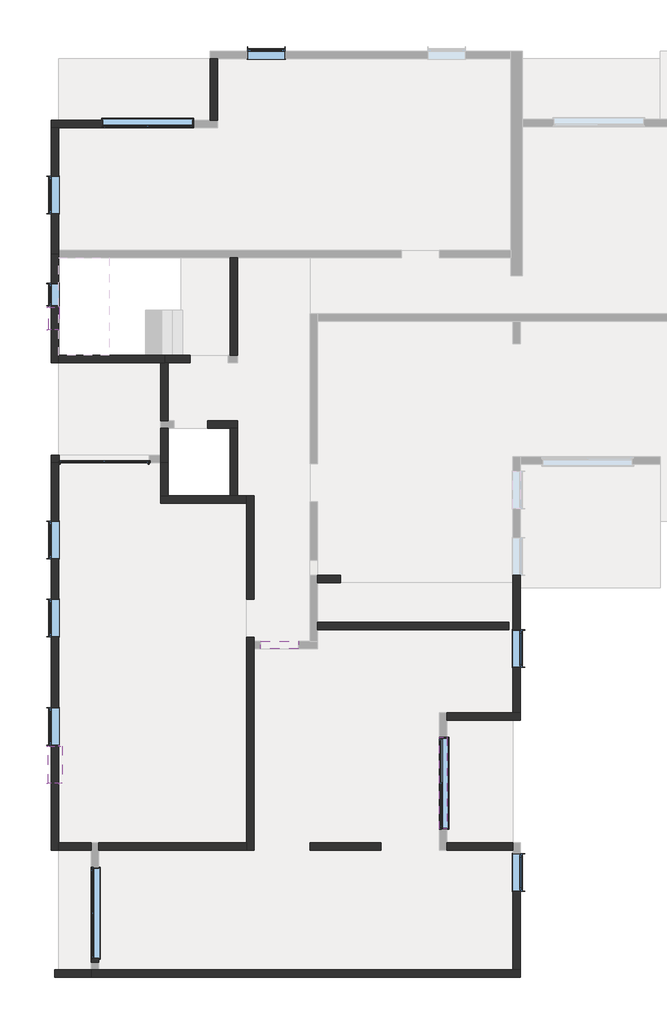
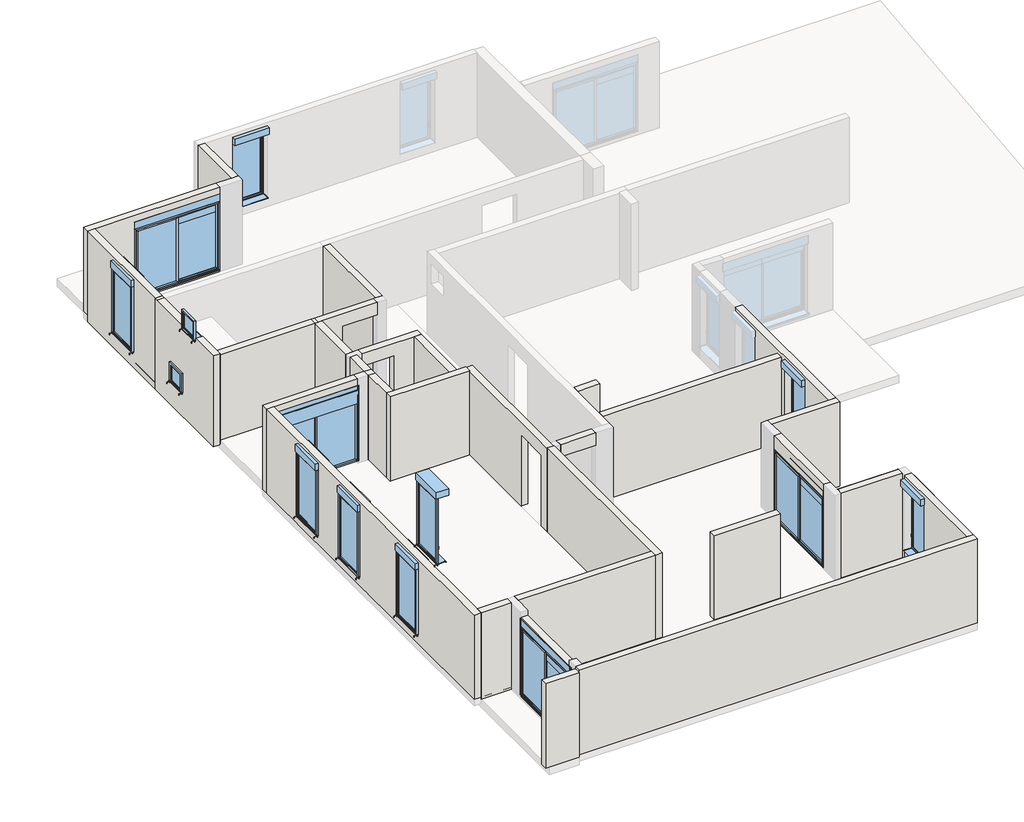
# One storey, part 1 of 3: 31 walls, 14 windows.
"""IFC4 building model written with IfcOpenShell, lengths in millimetres."""

from ifc_helpers import new_model, si_unit, frame, origin, place, context, project, spatial, polyline, outline, extrude, faceted_brep, transform, mapped, element, save
from components import window_b85a0a24, window_200x100_8459d8a5, window_200x100_a15cc3b6, m03_dc1d0546, tunnel_1v_voile_60x60_87597c4a

model = new_model("IFC4")

# Units and contexts
model_context = context("Model", 3, world=origin())
ifc_project = project(units=[si_unit("LENGTHUNIT", "METRE", prefix="MILLI")], contexts=[model_context])

# Site, building, storey
site = spatial("IfcSite", under=ifc_project)
building = spatial("IfcBuilding", under=site)
storey = spatial("IfcBuildingStorey", under=building, Name="04-Plateau 4", Elevation=6400.0)

# Walls
placement = place(None, origin())
element("IfcWall", 1, ObjectType="Voile Banché 20 cm", at=placement, inside=storey, context=model_context, shape_type="SweptSolid", body=[
    extrude(outline(polyline([(-4837.0447796, -2140.1377724), (-887.0447796, -2140.1377724), (-887.0447796, -2340.1377724), (-4837.0447796, -2340.1377724), (-4837.0447796, -2140.1377724)])), frame((0.0, 0.0, 6970.0), z_axis=(0.0, 0.0, 1.0), x_axis=(1.0, 0.0, 0.0)), (0.0, 0.0, 1.0), 2570.0),
])
element("IfcWall", 2, ObjectType="Voile Banché 20 cm", at=placement, inside=storey, context=model_context, shape_type="Brep", body=[
    faceted_brep([(-6107.0447796, 13579.8622276, 6770.0), (-6107.0447796, 10679.8622276, 6770.0), (-6107.0447796, 10679.8622276, 6990.0), (-6107.0447796, 10679.8622276, 9360.0), (-6107.0447796, 10679.8622276, 9540.0), (-6107.0447796, 10879.8622276, 9540.0), (-6107.0447796, 11554.8622276, 9540.0), (-6107.0447796, 11554.8622276, 9480.0), (-6107.0447796, 12154.8622276, 9480.0), (-6107.0447796, 12154.8622276, 9540.0), (-6107.0447796, 13479.8622276, 9540.0), (-6107.0447796, 13579.8622276, 9540.0), (-6107.0447796, 12794.4911239, 7495.0), (-6107.0447796, 12794.4911239, 8095.0), (-6107.0447796, 12194.4911239, 8095.0), (-6107.0447796, 12194.4911239, 7495.0), (-5907.0447796, 10679.8622276, 6770.0), (-5907.0447796, 13579.8622276, 6770.0), (-5907.0447796, 13579.8622276, 9540.0), (-5907.0447796, 13479.8622276, 9540.0), (-5907.0447796, 12154.8622276, 9540.0), (-5907.0447796, 12154.8622276, 9480.0), (-5907.0447796, 11554.8622276, 9480.0), (-5907.0447796, 11554.8622276, 9540.0), (-5907.0447796, 10879.8622276, 9540.0), (-5907.0447796, 10679.8622276, 9540.0), (-5907.0447796, 10679.8622276, 9510.0), (-5907.0447796, 10679.8622276, 9360.0), (-5907.0447796, 10679.8622276, 6990.0), (-5907.0447796, 10679.8622276, 6792.7706813), (-5907.0447796, 12794.4911239, 8095.0), (-5907.0447796, 12794.4911239, 7495.0), (-5907.0447796, 12194.4911239, 7495.0), (-5907.0447796, 12194.4911239, 8095.0)], [[[0, 1, 2, 3, 4, 5, 6, 7, 8, 9, 10, 11], [12, 13, 14, 15]], [[16, 17, 18, 19, 20, 21, 22, 23, 24, 25, 26, 27, 28, 29], [30, 31, 32, 33]], [[1, 0, 17, 16]], [[4, 3, 2, 1, 16, 29, 28, 27, 26, 25]], [[4, 25, 24, 23, 6, 5]], [[10, 9, 20, 19]], [[11, 10, 19, 18]], [[8, 21, 20, 9]], [[22, 7, 6, 23]], [[21, 8, 7, 22]], [[12, 31, 30, 13]], [[13, 30, 33, 14]], [[14, 33, 32, 15]], [[31, 12, 15, 32]], [[17, 0, 11, 18]]]),
])
element("IfcWall", 3, ObjectType="Voile Banché 20 cm", at=placement, inside=storey, context=model_context, shape_type="Brep", body=[
    faceted_brep([(-5907.0447796, 10679.8622276, 6792.7706813), (-3177.0447796, 10679.8622276, 6792.7706813), (-3077.0447796, 10679.8622276, 6792.7706813), (-3077.0447796, 10679.8622276, 6970.0), (-3077.0447796, 10679.8622276, 9510.0), (-3177.0447796, 10679.8622276, 9510.0), (-5907.0447796, 10679.8622276, 9510.0), (-5907.0447796, 10679.8622276, 6900.0), (-5907.0447796, 10879.8622276, 6792.7706813), (-5907.0447796, 10879.8622276, 9510.0), (-3177.0447796, 10879.8622276, 9510.0), (-3077.0447796, 10879.8622276, 9510.0), (-3077.0447796, 10879.8622276, 6970.0), (-3077.0447796, 10879.8622276, 6792.7706813), (-5907.0447796, 10779.8622276, 6792.7706813)], [[[0, 1, 2, 3, 4, 5, 6, 7]], [[8, 9, 10, 11, 12, 13]], [[2, 1, 0, 14, 8, 13]], [[4, 3, 2, 13, 12, 11]], [[0, 7, 6, 9, 8, 14]], [[6, 5, 10, 9]], [[5, 4, 11, 10]]]),
])
element("IfcWall", 4, ObjectType="Voile Banché 20 cm", at=placement, inside=storey, context=model_context, shape_type="Brep", body=[
    faceted_brep([(-1377.0447796, 10679.8622276, 9510.0), (-2977.0447796, 10679.8622276, 9510.0), (-3077.0447796, 10679.8622276, 9510.0), (-3077.0447796, 10679.8622276, 6970.0), (-2977.0447796, 10679.8622276, 6970.0), (-2397.0447796, 10679.8622276, 6970.0), (-2397.0447796, 10679.8622276, 9140.0), (-1377.0447796, 10679.8622276, 9140.0), (-3077.0447796, 10879.8622276, 9510.0), (-1377.0447796, 10879.8622276, 9510.0), (-1377.0447796, 10879.8622276, 9140.0), (-2397.0447796, 10879.8622276, 9140.0), (-2397.0447796, 10879.8622276, 6970.0), (-3077.0447796, 10879.8622276, 6970.0)], [[[0, 1, 2, 3, 4, 5, 6, 7]], [[8, 9, 10, 11, 12, 13]], [[3, 13, 12, 5, 4]], [[9, 0, 7, 10]], [[3, 2, 8, 13]], [[6, 11, 10, 7]], [[11, 6, 5, 12]], [[2, 1, 0, 9, 8]]]),
])
element("IfcWall", 5, ObjectType="Voile Banché 20 cm", at=placement, inside=storey, context=model_context, shape_type="Brep", body=[
    faceted_brep([(-3177.0447796, 10679.8622276, 6970.0), (-3177.0447796, 9129.8622276, 6970.0), (-3177.0447796, 9129.8622276, 9510.0), (-3177.0447796, 10679.8622276, 9510.0), (-2977.0447796, 10679.8622276, 6970.0), (-2977.0447796, 10679.8622276, 9510.0), (-2977.0447796, 9129.8622276, 9510.0), (-2977.0447796, 9129.8622276, 6970.0), (-3077.0447796, 10679.8622276, 6970.0), (-3077.0447796, 10679.8622276, 9510.0)], [[[0, 1, 2, 3]], [[4, 5, 6, 7]], [[1, 0, 8, 4, 7]], [[2, 1, 7, 6]], [[0, 3, 9, 5, 4, 8]], [[3, 2, 6, 5, 9]]]),
])
element("IfcWall", 6, ObjectType="Voile Banché 20 cm", at=placement, inside=storey, context=model_context, shape_type="Brep", body=[
    faceted_brep([(-1127.0447796, 8929.8622276, 6970.0), (-1127.0447796, 8929.8622276, 9510.0), (-1327.0447796, 8929.8622276, 9510.0), (-2817.0447796, 8929.8622276, 9510.0), (-2817.0447796, 8929.8622276, 9140.0), (-1917.0447796, 8929.8622276, 9140.0), (-1917.0447796, 8929.8622276, 6970.0), (-1327.0447796, 8929.8622276, 6970.0), (-1127.0447796, 9129.8622276, 9510.0), (-1127.0447796, 9129.8622276, 6970.0), (-1917.0447796, 9129.8622276, 6970.0), (-1917.0447796, 9129.8622276, 9140.0), (-2817.0447796, 9129.8622276, 9140.0), (-2817.0447796, 9129.8622276, 9510.0)], [[[0, 1, 2, 3, 4, 5, 6, 7]], [[8, 9, 10, 11, 12, 13]], [[9, 0, 7, 6, 10]], [[3, 13, 12, 4]], [[1, 0, 9, 8]], [[11, 5, 4, 12]], [[5, 11, 10, 6]], [[3, 2, 1, 8, 13]]]),
])
element("IfcWall", 7, ObjectType="Voile Banché 20 cm", at=placement, inside=storey, context=model_context, shape_type="SweptSolid", body=[
    extrude(outline(polyline([(-1327.0447796, 7129.8622276), (-1327.0447796, 8929.8622276), (-1127.0447796, 8929.8622276), (-1127.0447796, 7129.8622276), (-1327.0447796, 7129.8622276)])), frame((0.0, 0.0, 6970.0), z_axis=(0.0, 0.0, 1.0), x_axis=(1.0, 0.0, 0.0)), (0.0, 0.0, 1.0), 2540.0),
])
element("IfcWall", 8, ObjectType="Voile Banché 20 cm", at=placement, inside=storey, context=model_context, shape_type="SweptSolid", body=[
    extrude(outline(polyline([(-2977.0447796, 8009.8622276), (-2977.0447796, 7129.8622276), (-3177.0447796, 7129.8622276), (-3177.0447796, 8009.8622276), (-2977.0447796, 8009.8622276)])), frame((0.0, 0.0, 6970.0), z_axis=(0.0, 0.0, 1.0), x_axis=(1.0, 0.0, 0.0)), (0.0, 0.0, 1.0), 2570.0),
])
element("IfcWall", 9, ObjectType="Voile Banché 20 cm", at=placement, inside=storey, context=model_context, shape_type="Brep", body=[
    faceted_brep([(-6107.0447796, 8009.8622276, 6970.0), (-6107.0447796, 7629.8622276, 6970.0), (-6107.0447796, 7129.8622276, 6970.0), (-6107.0447796, -2340.1377724, 6970.0), (-6107.0447796, -2340.1377724, 6990.0), (-6107.0447796, -2340.1377724, 9360.0), (-6107.0447796, -2340.1377724, 9540.0), (-6107.0447796, 8009.8622276, 9540.0), (-6107.0447796, 5439.8622276, 9440.0), (-6107.0447796, 5439.8622276, 7240.0), (-6107.0447796, 6439.8622276, 7240.0), (-6107.0447796, 6439.8622276, 9440.0), (-6107.0447796, 3359.8622276, 9440.0), (-6107.0447796, 3359.8622276, 7240.0), (-6107.0447796, 4359.8622276, 7240.0), (-6107.0447796, 4359.8622276, 9440.0), (-6107.0447796, 459.8622276, 9440.0), (-6107.0447796, 459.8622276, 7240.0), (-6107.0447796, 1459.8622276, 7240.0), (-6107.0447796, 1459.8622276, 9440.0), (-5907.0447796, -2340.1377724, 6970.0), (-5907.0447796, 8009.8622276, 6970.0), (-5907.0447796, 8009.8622276, 9540.0), (-5907.0447796, -2140.1377724, 9540.0), (-5907.0447796, -2340.1377724, 9540.0), (-5907.0447796, -2340.1377724, 9360.0), (-5907.0447796, -2340.1377724, 6990.0), (-5907.0447796, 5439.8622276, 7240.0), (-5907.0447796, 5439.8622276, 9440.0), (-5907.0447796, 6439.8622276, 9440.0), (-5907.0447796, 6439.8622276, 7240.0), (-5907.0447796, 3359.8622276, 7240.0), (-5907.0447796, 3359.8622276, 9440.0), (-5907.0447796, 4359.8622276, 9440.0), (-5907.0447796, 4359.8622276, 7240.0), (-5907.0447796, 459.8622276, 7240.0), (-5907.0447796, 459.8622276, 9440.0), (-5907.0447796, 1459.8622276, 9440.0), (-5907.0447796, 1459.8622276, 7240.0)], [[[0, 1, 2, 3, 4, 5, 6, 7], [8, 9, 10, 11], [12, 13, 14, 15], [16, 17, 18, 19]], [[20, 21, 22, 23, 24, 25, 26], [27, 28, 29, 30], [31, 32, 33, 34], [35, 36, 37, 38]], [[3, 2, 1, 0, 21, 20]], [[6, 5, 4, 3, 20, 26, 25, 24]], [[0, 7, 22, 21]], [[7, 6, 24, 23, 22]], [[27, 9, 8, 28]], [[28, 8, 11, 29]], [[29, 11, 10, 30]], [[9, 27, 30, 10]], [[31, 13, 12, 32]], [[32, 12, 15, 33]], [[33, 15, 14, 34]], [[13, 31, 34, 14]], [[35, 17, 16, 36]], [[36, 16, 19, 37]], [[37, 19, 18, 38]], [[17, 35, 38, 18]]]),
])
element("IfcWall", 10, ObjectType="Voile Banché 20 cm", at=placement, inside=storey, context=model_context, shape_type="Brep", body=[
    faceted_brep([(-5037.0447796, -5740.1377724, 6970.0), (6432.9552204, -5740.1377724, 6970.0), (6432.9552204, -5740.1377724, 9540.0), (-5037.0447796, -5740.1377724, 9540.0), (-5037.0447796, -5740.1377724, 9470.0), (-5037.0447796, -5540.1377724, 6970.0), (-5037.0447796, -5540.1377724, 9470.0), (-5037.0447796, -5540.1377724, 9540.0), (-4837.0447796, -5540.1377724, 9540.0), (6232.9552204, -5540.1377724, 9540.0), (6432.9552204, -5540.1377724, 9540.0), (6432.9552204, -5540.1377724, 6970.0), (-4837.0447796, -5540.1377724, 6970.0)], [[[0, 1, 2, 3, 4]], [[5, 6, 7, 8, 9, 10, 11, 12]], [[1, 0, 5, 12, 11]], [[0, 4, 3, 7, 6, 5]], [[2, 1, 11, 10]], [[3, 2, 10, 9, 8, 7]]]),
])
element("IfcWall", 11, ObjectType="Voile Banché 20 cm", at=placement, inside=storey, context=model_context, shape_type="Brep", body=[
    faceted_brep([(-887.0447796, -2340.1377724, 6970.0), (-887.0447796, -2340.1377724, 9540.0), (-887.0447796, -2140.1377724, 9540.0), (-887.0447796, 3039.8622276, 9540.0), (-887.0447796, 3039.8622276, 9510.0), (-887.0447796, 7129.8622276, 9510.0), (-887.0447796, 7129.8622276, 6970.0), (-887.0447796, 6929.8622276, 6970.0), (-887.0447796, 4359.8622276, 6970.0), (-887.0447796, 4359.8622276, 9140.0), (-887.0447796, 3339.8622276, 9140.0), (-887.0447796, 3339.8622276, 6970.0), (-887.0447796, -2140.1377724, 6970.0), (-687.0447796, -2340.1377724, 9540.0), (-687.0447796, -2340.1377724, 6970.0), (-687.0447796, 3039.8622276, 6970.0), (-687.0447796, 3239.8622276, 6970.0), (-687.0447796, 3339.8622276, 6970.0), (-687.0447796, 3339.8622276, 9140.0), (-687.0447796, 4359.8622276, 9140.0), (-687.0447796, 4359.8622276, 6970.0), (-687.0447796, 7129.8622276, 6970.0), (-687.0447796, 7129.8622276, 9510.0), (-687.0447796, 3239.8622276, 9510.0), (-687.0447796, 3039.8622276, 9510.0), (-687.0447796, 3039.8622276, 9540.0)], [[[0, 1, 2, 3, 4, 5, 6, 7, 8, 9, 10, 11, 12]], [[13, 14, 15, 16, 17, 18, 19, 20, 21, 22, 23, 24, 25]], [[14, 0, 12, 11, 17, 16, 15]], [[6, 21, 20, 8, 7]], [[1, 0, 14, 13]], [[6, 5, 22, 21]], [[9, 19, 18, 10]], [[19, 9, 8, 20]], [[10, 18, 17, 11]], [[3, 2, 1, 13, 25]], [[5, 4, 24, 23, 22]], [[3, 25, 24, 4]]]),
])
element("IfcWall", 12, ObjectType="Voile Banché 20 cm", at=placement, inside=storey, context=model_context, shape_type="SweptSolid", body=[
    extrude(outline(polyline([(-1127.0447796, 13479.8622276), (-1127.0447796, 10879.8622276), (-1327.0447796, 10879.8622276), (-1327.0447796, 13479.8622276), (-1127.0447796, 13479.8622276)])), frame((0.0, 0.0, 6970.0), z_axis=(0.0, 0.0, 1.0), x_axis=(1.0, 0.0, 0.0)), (0.0, 0.0, 1.0), 2540.0),
])
element("IfcWall", 13, ObjectType="Voile Banché 20 cm", at=placement, inside=storey, context=model_context, shape_type="Brep", body=[
    faceted_brep([(-6007.0447796, -5740.1377724, 6900.0), (-5907.0447796, -5740.1377724, 6900.0), (-5037.0447796, -5740.1377724, 6900.0), (-5037.0447796, -5740.1377724, 6970.0), (-5037.0447796, -5740.1377724, 9470.0), (-6007.0447796, -5740.1377724, 9470.0), (-6007.0447796, -5740.1377724, 6990.0), (-6007.0447796, -5540.1377724, 6900.0), (-6007.0447796, -5540.1377724, 6990.0), (-6007.0447796, -5540.1377724, 9470.0), (-5037.0447796, -5540.1377724, 9470.0), (-5037.0447796, -5540.1377724, 9430.0), (-5037.0447796, -5540.1377724, 6970.0), (-5037.0447796, -5540.1377724, 6900.0), (-5907.0447796, -5540.1377724, 6900.0)], [[[0, 1, 2, 3, 4, 5, 6]], [[7, 8, 9, 10, 11, 12, 13, 14]], [[2, 1, 0, 7, 14, 13]], [[4, 3, 2, 13, 12, 11, 10]], [[5, 4, 10, 9]], [[0, 6, 5, 9, 8, 7]]]),
])
element("IfcWall", 14, ObjectType="Voile Banché 20 cm", at=placement, inside=storey, context=model_context, shape_type="SweptSolid", body=[
    extrude(outline(polyline([(2712.9552204, -2340.1377724), (812.9552204, -2340.1377724), (812.9552204, -2140.1377724), (2712.9552204, -2140.1377724), (2712.9552204, -2340.1377724)])), frame((0.0, 0.0, 6970.0), z_axis=(0.0, 0.0, 1.0), x_axis=(1.0, 0.0, 0.0)), (0.0, 0.0, 1.0), 2570.0),
])
element("IfcWall", 15, ObjectType="Voile Banché 20 cm", at=placement, inside=storey, context=model_context, shape_type="Brep", body=[
    faceted_brep([(4478.3552204, -2340.1377724, 6900.0), (6233.3552204, -2340.1377724, 6900.0), (6233.3552204, -2340.1377724, 6970.0), (6233.3552204, -2340.1377724, 9540.0), (6232.9552204, -2340.1377724, 9540.0), (4478.3552204, -2340.1377724, 9540.0), (4478.3552204, -2340.1377724, 6970.0), (4478.3552204, -2140.1377724, 6900.0), (4478.3552204, -2140.1377724, 9540.0), (6232.9552204, -2140.1377724, 9540.0), (6233.3552204, -2140.1377724, 9540.0), (6233.3552204, -2140.1377724, 6970.0), (6233.3552204, -2140.1377724, 6900.0), (6233.3552204, -2142.5306807, 9540.0), (4478.3552204, -2142.5306807, 9540.0)], [[[0, 1, 2, 3, 4, 5, 6]], [[7, 8, 9, 10, 11, 12]], [[1, 0, 7, 12]], [[3, 2, 1, 12, 11, 10, 13]], [[0, 6, 5, 14, 8, 7]], [[13, 10, 9, 8, 14]], [[5, 4, 3, 13, 14]]]),
])
element("IfcWall", 16, ObjectType="Voile Banché 20 cm", at=placement, inside=storey, context=model_context, shape_type="Brep", body=[
    faceted_brep([(4478.3552204, 1129.8622276, 6970.0), (6432.9552204, 1129.8622276, 6970.0), (6432.9552204, 1129.8622276, 9540.0), (4478.3552204, 1129.8622276, 9540.0), (4478.3552204, 1329.8622276, 6970.0), (4478.3552204, 1329.8622276, 9540.0), (6232.9552204, 1329.8622276, 9540.0), (6432.9552204, 1329.8622276, 9540.0), (6432.9552204, 1329.8622276, 6970.0), (6232.9552204, 1329.8622276, 6970.0)], [[[0, 1, 2, 3]], [[4, 5, 6, 7, 8, 9]], [[1, 0, 4, 9, 8]], [[0, 3, 5, 4]], [[2, 1, 8, 7]], [[3, 2, 7, 6, 5]]]),
])
element("IfcWall", 17, ObjectType="Voile Banché 20 cm", at=placement, inside=storey, context=model_context, shape_type="Brep", body=[
    faceted_brep([(-6107.0447796, 8009.8622276, 9540.0), (-6107.0447796, 8009.8622276, 6970.0), (-5907.0447796, 8009.8622276, 6970.0), (-5887.0447796, 8009.8622276, 6970.0), (-5887.0447796, 8009.8622276, 6990.0), (-5887.0447796, 8009.8622276, 7040.0), (-5917.0447796, 8009.8622276, 7040.0), (-5917.0447796, 8009.8622276, 9120.0), (-5917.0447796, 8009.8622276, 9340.0), (-3487.0447796, 8009.8622276, 9340.0), (-3487.0447796, 8009.8622276, 9540.0), (-5907.0447796, 8009.8622276, 9540.0), (-6107.0447796, 8209.8622276, 6970.0), (-6107.0447796, 8209.8622276, 9540.0), (-3487.0447796, 8209.8622276, 9540.0), (-3487.0447796, 8209.8622276, 9340.0), (-5917.0447796, 8209.8622276, 9340.0), (-5917.0447796, 8209.8622276, 9090.0), (-5887.0447796, 8209.8622276, 9090.0), (-5887.0447796, 8209.8622276, 6970.0), (-5887.0447796, 8059.8622276, 9090.0), (-5917.0447796, 8059.8622276, 9090.0), (-5917.0447796, 8059.8622276, 7040.0), (-5897.0447796, 8059.8622276, 7040.0), (-5887.0447796, 8059.8622276, 7040.0)], [[[0, 1, 2, 3, 4, 5, 6, 7, 8, 9, 10, 11]], [[12, 13, 14, 15, 16, 17, 18, 19]], [[1, 12, 19, 3, 2]], [[14, 10, 9, 15]], [[1, 0, 13, 12]], [[0, 11, 10, 14, 13]], [[20, 21, 22, 23, 24]], [[22, 21, 17, 16, 8, 7, 6]], [[23, 22, 6, 5, 24]], [[20, 24, 5, 4, 3, 19, 18]], [[8, 16, 15, 9]], [[21, 20, 18, 17]]]),
])
element("IfcWall", 18, ObjectType="Voile Banché 20 cm", at=placement, inside=storey, context=model_context, shape_type="Brep", body=[
    faceted_brep([(-887.0447796, 7129.8622276, 6970.0), (-1127.0447796, 7129.8622276, 6970.0), (-1327.0447796, 7129.8622276, 6970.0), (-2977.0447796, 7129.8622276, 6970.0), (-3177.0447796, 7129.8622276, 6970.0), (-3177.0447796, 7129.8622276, 9540.0), (-2977.0447796, 7129.8622276, 9540.0), (-887.0447796, 7129.8622276, 9540.0), (-887.0447796, 7129.8622276, 9510.0), (-887.0447796, 6929.8622276, 6970.0), (-887.0447796, 6929.8622276, 9540.0), (-3177.0447796, 6929.8622276, 9540.0), (-3177.0447796, 6929.8622276, 6970.0)], [[[0, 1, 2, 3, 4, 5, 6, 7, 8]], [[9, 10, 11, 12]], [[4, 3, 2, 1, 0, 9, 12]], [[5, 4, 12, 11]], [[0, 8, 7, 10, 9]], [[7, 6, 5, 11, 10]]]),
])
element("IfcWall", 19, ObjectType="Voile Banché 20 cm", at=placement, inside=storey, context=model_context, shape_type="SweptSolid", body=[
    extrude(outline(polyline([(507.9552204, 3039.8622276), (-512.0447796, 3039.8622276), (-512.0447796, 3239.8622276), (507.9552204, 3239.8622276), (507.9552204, 3039.8622276)])), frame((0.0, 0.0, 9140.0), z_axis=(0.0, 0.0, 1.0), x_axis=(1.0, 0.0, 0.0)), (0.0, 0.0, 1.0), 370.0),
])
element("IfcWall", 20, ObjectType="Voile Banché 20 cm", at=placement, inside=storey, context=model_context, shape_type="Brep", body=[
    faceted_brep([(4478.3552204, -1770.1377724, 9140.0), (4478.3552204, 649.8622276, 9140.0), (4478.3552204, 677.5337635, 9140.0), (4478.3552204, 677.5337635, 9540.0), (4478.3552204, -1770.1377724, 9540.0), (4278.3552204, -1770.1377724, 9140.0), (4278.3552204, -1770.1377724, 9540.0), (4278.3552204, 677.5337635, 9540.0), (4278.3552204, 677.5337635, 9140.0), (4278.3552204, 649.8622276, 9140.0)], [[[0, 1, 2, 3, 4]], [[5, 6, 7, 8, 9]], [[2, 1, 0, 5, 9, 8]], [[3, 2, 8, 7]], [[0, 4, 6, 5]], [[4, 3, 7, 6]]]),
])
element("IfcWall", 21, ObjectType="Voile Banché 20 cm", at=placement, inside=storey, context=model_context, shape_type="Brep", body=[
    faceted_brep([(-2977.0447796, 8009.8622276, 6970.0), (-2977.0447796, 8929.8622276, 6970.0), (-2977.0447796, 8929.8622276, 9540.0), (-2977.0447796, 8209.8622276, 9540.0), (-2977.0447796, 8009.8622276, 9540.0), (-3177.0447796, 8009.8622276, 6970.0), (-3177.0447796, 8009.8622276, 9540.0), (-3177.0447796, 8209.8622276, 9540.0), (-3177.0447796, 8929.8622276, 9540.0), (-3177.0447796, 8929.8622276, 9510.0), (-3177.0447796, 8929.8622276, 6970.0), (-3177.0447796, 8209.8622276, 6970.0)], [[[0, 1, 2, 3, 4]], [[5, 6, 7, 8, 9, 10, 11]], [[1, 0, 5, 11, 10]], [[2, 1, 10, 9, 8]], [[0, 4, 6, 5]], [[3, 2, 8, 7]], [[4, 3, 7, 6]]]),
])
element("IfcWall", 22, ObjectType="Acrotère BA 20 cm", at=placement, inside=storey, context=model_context, shape_type="Brep", body=[
    faceted_brep([(-5037.0447796, -2820.1377724, 6970.0), (-5037.0447796, -5340.1377724, 6970.0), (-5037.0447796, -5340.1377724, 9381.9898847), (-5037.0447796, -2820.1377724, 9381.9898847), (-5037.0447796, -2820.1377724, 9340.0), (-5037.0447796, -5260.1377724, 9340.0), (-5037.0447796, -5260.1377724, 9120.0), (-5037.0447796, -5260.1377724, 7040.0), (-5037.0447796, -5260.1377724, 7010.0), (-5037.0447796, -2820.1377724, 7010.0), (-4837.0447796, -5340.1377724, 9381.9898847), (-4837.0447796, -5340.1377724, 6970.0), (-4837.0447796, -5260.1377724, 6970.0), (-4837.0447796, -5260.1377724, 6995.0695702), (-4837.0447796, -5230.1377724, 6995.0695702), (-4837.0447796, -5230.1377724, 9090.0), (-4837.0447796, -5260.1377724, 9090.0), (-4837.0447796, -5260.1377724, 9340.0), (-4837.0447796, -2820.1377724, 9340.0), (-4837.0447796, -2820.1377724, 9381.9898847), (-4997.0447796, -2820.1377724, 6970.0), (-4997.0447796, -5260.1377724, 6970.0), (-4987.0447796, -5240.1377724, 9100.0), (-4987.0447796, -5240.1377724, 7040.0), (-4987.0447796, -5260.1377724, 7040.0), (-4987.0447796, -5260.1377724, 9100.0), (-4977.0447796, -5260.1377724, 7040.0), (-4977.0447796, -5260.1377724, 7009.2643667), (-4977.0447796, -5260.1377724, 9090.0), (-4977.0447796, -5260.1377724, 9100.0), (-4977.0447796, -5230.1377724, 7009.2643667), (-4977.0447796, -5230.1377724, 9090.0), (-4977.0447796, -5240.1377724, 7040.0), (-4977.0447796, -5240.1377724, 9090.0), (-4977.0447796, -5240.1377724, 9100.0)], [[[0, 1, 2, 3, 4, 5, 6, 7, 8, 9]], [[10, 11, 12, 13, 14, 15, 16, 17, 18, 19]], [[1, 0, 20, 21, 12, 11]], [[2, 1, 11, 10]], [[3, 2, 10, 19]], [[3, 19, 18, 4]], [[0, 9, 20]], [[22, 23, 24, 25]], [[25, 24, 26, 27, 13, 12, 21, 8, 7, 6, 5, 17, 16, 28, 29]], [[30, 31, 15, 14]], [[27, 26, 32, 33, 31, 30]], [[23, 22, 34, 33, 32]], [[8, 21, 20, 9]], [[27, 30, 14, 13]], [[24, 23, 32, 26]], [[17, 5, 4, 18]], [[22, 25, 29, 34]], [[29, 28, 33, 34]], [[28, 16, 15, 31, 33]]]),
    faceted_brep([(-4837.0447796, -2820.1377724, 6995.0695702), (-4837.0447796, -2820.1377724, 9090.0), (-4837.0447796, -2830.1377724, 9090.0), (-4837.0447796, -2830.1377724, 6995.0695702), (-4977.0447796, -2820.1377724, 7009.2643667), (-4977.0447796, -2820.1377724, 7040.0), (-4977.0447796, -2820.1377724, 9090.0), (-4977.0447796, -2830.1377724, 9090.0), (-4977.0447796, -2830.1377724, 7009.2643667)], [[[0, 1, 2, 3]], [[1, 0, 4, 5, 6]], [[2, 7, 8, 3]], [[8, 7, 6, 5, 4]], [[3, 8, 4, 0]], [[7, 2, 1, 6]]]),
])
element("IfcWall", 23, ObjectType="Acrotère BA 20 cm", at=placement, inside=storey, context=model_context, shape_type="Brep", body=[
    faceted_brep([(4478.3552204, 677.5337635, 7040.0), (4478.3552204, 677.5337635, 9090.0), (4478.3552204, 650.7531745, 9090.0), (4478.3552204, 650.7531745, 7040.0), (4338.3552204, 650.7531745, 7040.0), (4338.3552204, 660.7531745, 7040.0), (4328.3552204, 660.7531745, 7040.0), (4328.3552204, 677.5337635, 7040.0), (4338.3552204, 677.5337635, 7040.0), (4328.3552204, 677.5337635, 9100.0), (4338.3552204, 677.5337635, 9100.0), (4338.3552204, 677.5337635, 9090.0), (4328.3552204, 660.7531745, 9100.0), (4338.3552204, 650.7531745, 9090.0), (4338.3552204, 660.7531745, 9090.0), (4338.3552204, 660.7531745, 9100.0)], [[[0, 1, 2, 3]], [[0, 3, 4, 5, 6, 7, 8]], [[1, 0, 8, 7, 9, 10, 11]], [[6, 12, 9, 7]], [[2, 13, 4, 3]], [[13, 14, 5, 4]], [[12, 6, 5, 14, 15]], [[12, 15, 10, 9]], [[15, 14, 11, 10]], [[13, 2, 1, 11, 14]]]),
    faceted_brep([(4478.3552204, -1770.1377724, 9090.0), (4478.3552204, -1770.1377724, 7040.0), (4478.3552204, -1749.2468255, 7040.0), (4478.3552204, -1749.2468255, 9090.0), (4338.3552204, -1770.1377724, 7040.0), (4328.3552204, -1770.1377724, 7040.0), (4328.3552204, -1759.2468255, 7040.0), (4338.3552204, -1759.2468255, 7040.0), (4338.3552204, -1749.2468255, 7040.0), (4338.3552204, -1770.1377724, 9090.0), (4338.3552204, -1770.1377724, 9100.0), (4328.3552204, -1770.1377724, 9100.0), (4328.3552204, -1759.2468255, 9100.0), (4338.3552204, -1749.2468255, 9090.0), (4338.3552204, -1759.2468255, 9090.0), (4338.3552204, -1759.2468255, 9100.0)], [[[0, 1, 2, 3]], [[2, 1, 4, 5, 6, 7, 8]], [[1, 0, 9, 10, 11, 5, 4]], [[12, 6, 5, 11]], [[13, 3, 2, 8]], [[7, 14, 13, 8]], [[6, 12, 15, 14, 7]], [[15, 12, 11, 10]], [[14, 15, 10, 9]], [[3, 13, 14, 9, 0]]]),
])
element("IfcWall", 24, ObjectType="Poutre voile 20cm", at=placement, inside=storey, context=model_context, shape_type="Brep", body=[
    faceted_brep([(-6107.0447796, 16949.8622276, 6970.0), (-2297.0447796, 16949.8622276, 6970.0), (-2297.0447796, 16949.8622276, 7010.0), (-4757.0447796, 16949.8622276, 7010.0), (-4757.0447796, 16949.8622276, 7040.0), (-4757.0447796, 16949.8622276, 9120.0), (-4757.0447796, 16949.8622276, 9340.0), (-2297.0447796, 16949.8622276, 9340.0), (-2297.0447796, 16949.8622276, 9540.0), (-5907.0447796, 16949.8622276, 9540.0), (-6107.0447796, 16949.8622276, 9540.0), (-6107.0447796, 17149.8622276, 6970.0), (-6107.0447796, 17149.8622276, 7640.0), (-6107.0447796, 17149.8622276, 9360.0), (-6107.0447796, 17149.8622276, 9540.0), (-2297.0447796, 17149.8622276, 9540.0), (-2297.0447796, 17149.8622276, 9340.0), (-4757.0447796, 17149.8622276, 9340.0), (-4757.0447796, 17149.8622276, 9090.0), (-4727.0447796, 17149.8622276, 9090.0), (-4727.0447796, 17149.8622276, 6995.0695702), (-4757.0447796, 17149.8622276, 6995.0695702), (-4757.0447796, 17149.8622276, 6970.0), (-4757.0447796, 16989.8622276, 6970.0), (-2297.0447796, 16989.8622276, 6970.0), (-4737.0447796, 16999.8622276, 7040.0), (-4737.0447796, 16999.8622276, 9100.0), (-4757.0447796, 16999.8622276, 9100.0), (-4757.0447796, 16999.8622276, 7040.0), (-4757.0447796, 17009.8622276, 9100.0), (-4757.0447796, 17009.8622276, 9090.0), (-4757.0447796, 17009.8622276, 7009.2643667), (-4757.0447796, 17009.8622276, 7040.0), (-4727.0447796, 17009.8622276, 9090.0), (-4727.0447796, 17009.8622276, 7009.2643667), (-4737.0447796, 17009.8622276, 9090.0), (-4737.0447796, 17009.8622276, 7040.0), (-4737.0447796, 17009.8622276, 9100.0)], [[[0, 1, 2, 3, 4, 5, 6, 7, 8, 9, 10]], [[11, 12, 13, 14, 15, 16, 17, 18, 19, 20, 21, 22]], [[1, 0, 11, 22, 23, 24]], [[15, 8, 7, 16]], [[2, 1, 24]], [[0, 10, 14, 13, 12, 11]], [[10, 9, 8, 15, 14]], [[25, 26, 27, 28]], [[28, 27, 29, 30, 18, 17, 6, 5, 4, 3, 23, 22, 21, 31, 32]], [[19, 33, 34, 20]], [[32, 31, 34, 33, 35, 36]], [[26, 25, 36, 35, 37]], [[23, 3, 2, 24]], [[34, 31, 21, 20]], [[25, 28, 32, 36]], [[6, 17, 16, 7]], [[27, 26, 37, 29]], [[30, 29, 37, 35]], [[18, 30, 35, 33, 19]]]),
    faceted_brep([(-2297.0447796, 17149.8622276, 9090.0), (-2297.0447796, 17149.8622276, 6995.0695702), (-2327.0447796, 17149.8622276, 6995.0695702), (-2327.0447796, 17149.8622276, 9090.0), (-2297.0447796, 17009.8622276, 9090.0), (-2297.0447796, 17009.8622276, 9100.0), (-2297.0447796, 16999.8622276, 9100.0), (-2297.0447796, 16999.8622276, 7040.0), (-2297.0447796, 17009.8622276, 7040.0), (-2297.0447796, 17009.8622276, 7009.2643667), (-2317.0447796, 16999.8622276, 9100.0), (-2317.0447796, 16999.8622276, 7040.0), (-2327.0447796, 17009.8622276, 7009.2643667), (-2327.0447796, 17009.8622276, 9090.0), (-2317.0447796, 17009.8622276, 7040.0), (-2317.0447796, 17009.8622276, 9090.0), (-2317.0447796, 17009.8622276, 9100.0)], [[[0, 1, 2, 3]], [[1, 0, 4, 5, 6, 7, 8, 9]], [[10, 11, 7, 6]], [[12, 13, 3, 2]], [[13, 12, 9, 8, 14, 15]], [[11, 10, 16, 15, 14]], [[9, 12, 2, 1]], [[7, 11, 14, 8]], [[10, 6, 5, 16]], [[15, 16, 5, 4]], [[3, 13, 15, 4, 0]]]),
])
element("IfcWall", 25, ObjectType="Poutre voile 20cm", at=placement, inside=storey, context=model_context, shape_type="SweptSolid", body=[
    extrude(outline(polyline([(-1657.0447796, 18799.8622276), (-1657.0447796, 17149.8622276), (-1857.0447796, 17149.8622276), (-1857.0447796, 18799.8622276), (-1657.0447796, 18799.8622276)])), frame((0.0, 0.0, 6970.0), z_axis=(0.0, 0.0, 1.0), x_axis=(1.0, 0.0, 0.0)), (0.0, 0.0, 1.0), 2570.0),
])
element("IfcWall", 26, ObjectType="Poutre voile 20cm", at=placement, inside=storey, context=model_context, shape_type="Brep", body=[
    faceted_brep([(6432.9552204, -5540.1377724, 6900.0), (6432.9552204, -2440.1377724, 6900.0), (6432.9552204, -2440.1377724, 6970.0), (6432.9552204, -2440.1377724, 7240.0), (6432.9552204, -3440.1377724, 7240.0), (6432.9552204, -3440.1377724, 9440.0), (6432.9552204, -2440.1377724, 9440.0), (6432.9552204, -2440.1377724, 9540.0), (6432.9552204, -5540.1377724, 9540.0), (6432.9552204, -5540.1377724, 6970.0), (6232.9552204, -2440.1377724, 6900.0), (6232.9552204, -5540.1377724, 6900.0), (6232.9552204, -5540.1377724, 9540.0), (6232.9552204, -2440.1377724, 9540.0), (6232.9552204, -2440.1377724, 9440.0), (6232.9552204, -3440.1377724, 9440.0), (6232.9552204, -3440.1377724, 7240.0), (6232.9552204, -2440.1377724, 7240.0), (6232.9552204, -2440.1377724, 6970.0)], [[[0, 1, 2, 3, 4, 5, 6, 7, 8, 9]], [[10, 11, 12, 13, 14, 15, 16, 17, 18]], [[1, 0, 11, 10]], [[1, 10, 18, 17, 3, 2]], [[13, 7, 6, 14]], [[0, 9, 8, 12, 11]], [[8, 7, 13, 12]], [[5, 15, 14, 6]], [[15, 5, 4, 16]], [[16, 4, 3, 17]]]),
])
element("IfcWall", 27, ObjectType="Poutre voile 20cm", at=placement, inside=storey, context=model_context, shape_type="SweptSolid", body=[
    extrude(outline(polyline([(6132.9552204, 3539.8622276), (1012.9552204, 3539.8622276), (1012.9552204, 3739.8622276), (6132.9552204, 3739.8622276), (6132.9552204, 3539.8622276)])), frame((0.0, 0.0, 6970.0), z_axis=(0.0, 0.0, 1.0), x_axis=(1.0, 0.0, 0.0)), (0.0, 0.0, 1.0), 2570.0),
])
element("IfcWall", 28, ObjectType="Poutre voile 20cm", at=placement, inside=storey, context=model_context, shape_type="Brep", body=[
    faceted_brep([(-5037.0447796, -2140.1377724, 6900.0), (-5907.0447796, -2140.1377724, 6900.0), (-5907.0447796, -2140.1377724, 9540.0), (-5037.0447796, -2140.1377724, 9540.0), (-5037.0447796, -2140.1377724, 6970.0), (-5037.0447796, -2340.1377724, 6900.0), (-5037.0447796, -2340.1377724, 9430.0), (-5037.0447796, -2340.1377724, 9540.0), (-5907.0447796, -2340.1377724, 9540.0), (-5907.0447796, -2340.1377724, 9430.0), (-5907.0447796, -2340.1377724, 6970.0), (-5907.0447796, -2340.1377724, 6900.0)], [[[0, 1, 2, 3, 4]], [[5, 6, 7, 8, 9, 10, 11]], [[1, 0, 5, 11]], [[0, 4, 3, 7, 6, 5]], [[2, 1, 11, 10, 9, 8]], [[3, 2, 8, 7]]]),
])
element("IfcWall", 29, ObjectType="Poutre voile 20cm", at=placement, inside=storey, context=model_context, shape_type="SweptSolid", body=[
    extrude(outline(polyline([(5999.8622276, 6970.0), (1329.8622276, 6970.0), (1329.8622276, 9540.0), (5999.8622276, 9540.0), (5999.8622276, 9440.0), (4999.8622276, 9440.0), (4999.8622276, 7240.0), (5999.8622276, 7240.0), (5999.8622276, 6970.0)]), holes=[polyline([(3539.8622276, 7240.0), (3539.8622276, 9440.0), (2539.8622276, 9440.0), (2539.8622276, 7240.0), (3539.8622276, 7240.0)])]), frame((6232.9552204, 0.0, 0.0), z_axis=(1.0, 0.0, 0.0), x_axis=(0.0, 1.0, 0.0)), (0.0, 0.0, 1.0), 200.0),
])
element("IfcWall", 30, ObjectType="Poutre voile 20cm", at=placement, inside=storey, context=model_context, shape_type="Brep", body=[
    faceted_brep([(1012.9552204, 4799.8622276, 6970.0), (1632.9552204, 4799.8622276, 6970.0), (1632.9552204, 4799.8622276, 9540.0), (1012.9552204, 4799.8622276, 9540.0), (1012.9552204, 4999.8622276, 6970.0), (1012.9552204, 4999.8622276, 7170.0), (1012.9552204, 4999.8622276, 7770.0), (1012.9552204, 4999.8622276, 9540.0), (1632.9552204, 4999.8622276, 9540.0), (1632.9552204, 4999.8622276, 6970.0)], [[[0, 1, 2, 3]], [[4, 5, 6, 7, 8, 9]], [[1, 0, 4, 9]], [[2, 1, 9, 8]], [[0, 3, 7, 6, 5, 4]], [[3, 2, 8, 7]]]),
])
element("IfcWall", 31, ObjectType="Voile", at=placement, inside=storey, context=model_context, shape_type="Brep", body=[
    faceted_brep([(-6107.0447796, 16949.8622276, 6770.0), (-6107.0447796, 13579.8622276, 6770.0), (-6107.0447796, 13579.8622276, 9540.0), (-6107.0447796, 16949.8622276, 9540.0), (-6107.0447796, 16949.8622276, 6970.0), (-6107.0447796, 14659.8622276, 9440.0), (-6107.0447796, 14659.8622276, 7240.0), (-6107.0447796, 15659.8622276, 7240.0), (-6107.0447796, 15659.8622276, 9440.0), (-5907.0447796, 13579.8622276, 6770.0), (-5907.0447796, 16949.8622276, 6770.0), (-5907.0447796, 16949.8622276, 9540.0), (-5907.0447796, 13579.8622276, 9540.0), (-5907.0447796, 14659.8622276, 7240.0), (-5907.0447796, 14659.8622276, 9440.0), (-5907.0447796, 15659.8622276, 9440.0), (-5907.0447796, 15659.8622276, 7240.0)], [[[0, 1, 2, 3, 4], [5, 6, 7, 8]], [[9, 10, 11, 12], [13, 14, 15, 16]], [[1, 0, 10, 9]], [[0, 4, 3, 11, 10]], [[3, 2, 12, 11]], [[13, 6, 5, 14]], [[14, 5, 8, 15]], [[15, 8, 7, 16]], [[6, 13, 16, 7]], [[1, 9, 12, 2]]]),
])

# Windows
window_shape = window_b85a0a24(model_context)
element("IfcWindow", 32, ObjectType="Rect 2 couliss+CVR+App : M03 Appuis 7 cm", at=placement, inside=storey, context=model_context, shape_type="MappedRepresentation", body=[
    mapped(window_shape, transform((-3527.0447796, 17049.8622276, 7040.0), x_axis=(1.0, 0.0, 0.0), y_axis=(0.0, 1.0, 0.0), z_axis=(0.0, 0.0, 1.0))),
])
element("IfcWindow", 33, ObjectType="Rect 2 couliss+CVR+App : M03 Appuis 7 cm", at=placement, inside=storey, context=model_context, shape_type="MappedRepresentation", body=[
    mapped(window_shape, transform((-4937.0447796, -4030.1377724, 7040.0), x_axis=(0.0, -1.0, 0.0), y_axis=(1.0, 0.0, 0.0), z_axis=(0.0, 0.0, 1.0))),
])
element("IfcWindow", 34, ObjectType="Rect 2 couliss+CVR+App : M03 Appuis 7 cm", at=placement, inside=storey, context=model_context, shape_type="MappedRepresentation", body=[
    mapped(window_shape, transform((4378.3552204, -549.2468255, 7040.0), x_axis=(0.0, -1.0, 0.0), y_axis=(1.0, 0.0, 0.0), z_axis=(0.0, 0.0, 1.0))),
])
window_200x100_shape = window_200x100_8459d8a5(model_context)
element("IfcWindow", 35, ObjectType="Tunnel 1V+VR+ Voile : 200x100", at=placement, inside=storey, context=model_context, shape_type="MappedRepresentation", body=[
    mapped(window_200x100_shape, transform((-6007.0447796, -60.1377724, 9210.0), x_axis=(0.0, 1.0, 0.0), y_axis=(-1.0, 0.0, 0.0), z_axis=(0.0, 0.0, 1.0))),
])
element("IfcWindow", 36, ObjectType="Tunnel 1V+VR+ Voile : 200x100", at=placement, inside=storey, context=model_context, shape_type="MappedRepresentation", body=[
    mapped(window_200x100_shape, transform((-6007.0447796, 5939.8622276, 6440.0), x_axis=(0.0, 1.0, 0.0), y_axis=(-1.0, 0.0, 0.0), z_axis=(0.0, 0.0, 1.0))),
])
element("IfcWindow", 37, ObjectType="Tunnel 1V+VR+ Voile : 200x100", at=placement, inside=storey, context=model_context, shape_type="MappedRepresentation", body=[
    mapped(window_200x100_shape, transform((-6007.0447796, 3859.8622276, 6440.0), x_axis=(0.0, 1.0, 0.0), y_axis=(-1.0, 0.0, 0.0), z_axis=(0.0, 0.0, 1.0))),
])
element("IfcWindow", 38, ObjectType="Tunnel 1V+VR+ Voile : 200x100", at=placement, inside=storey, context=model_context, shape_type="MappedRepresentation", body=[
    mapped(window_200x100_shape, transform((-6007.0447796, 959.8622276, 6440.0), x_axis=(0.0, 1.0, 0.0), y_axis=(-1.0, 0.0, 0.0), z_axis=(0.0, 0.0, 1.0))),
])
element("IfcWindow", 39, ObjectType="Tunnel 1V+VR+ Voile : 200x100", at=placement, inside=storey, context=model_context, shape_type="MappedRepresentation", body=[
    mapped(window_200x100_shape, transform((-6007.0447796, 15159.8622276, 6440.0), x_axis=(0.0, 1.0, 0.0), y_axis=(-1.0, 0.0, 0.0), z_axis=(0.0, 0.0, 1.0))),
])
window_200x100_2_shape = window_200x100_a15cc3b6(model_context)
element("IfcWindow", 40, ObjectType="Tunnel 1V+VR+ Voile : 200x100", at=placement, inside=storey, context=model_context, shape_type="MappedRepresentation", body=[
    mapped(window_200x100_2_shape, transform((-357.0447796, 18899.8622276, 6440.0), x_axis=(-1.0, 0.0, 0.0), y_axis=(0.0, -1.0, 0.0), z_axis=(0.0, 0.0, 1.0))),
])
element("IfcWindow", 41, ObjectType="Tunnel 1V+VR+ Voile : 200x100", at=placement, inside=storey, context=model_context, shape_type="MappedRepresentation", body=[
    mapped(window_200x100_shape, transform((6332.9552204, -2940.1377724, 6440.0), x_axis=(0.0, -1.0, 0.0), y_axis=(1.0, 0.0, 0.0), z_axis=(0.0, 0.0, 1.0))),
])
element("IfcWindow", 42, ObjectType="Tunnel 1V+VR+ Voile : 200x100", at=placement, inside=storey, context=model_context, shape_type="MappedRepresentation", body=[
    mapped(window_200x100_shape, transform((6332.9552204, 3039.8622276, 6440.0), x_axis=(0.0, -1.0, 0.0), y_axis=(1.0, 0.0, 0.0), z_axis=(0.0, 0.0, 1.0))),
])
m03_shape = m03_dc1d0546(model_context)
element("IfcWindow", 43, ObjectType="Rect 2 couliss+CVR+App : M03", at=placement, inside=storey, context=model_context, shape_type="MappedRepresentation", body=[
    mapped(m03_shape, transform((-4687.0447796, 8109.8622276, 7040.0), x_axis=(-1.0, 0.0, 0.0), y_axis=(0.0, -1.0, 0.0), z_axis=(0.0, 0.0, 1.0))),
])
tunnel_1v_voile_60x60_shape = tunnel_1v_voile_60x60_87597c4a(model_context)
element("IfcWindow", 44, ObjectType="Tunnel 1V+Voile : 60x60", at=placement, inside=storey, context=model_context, shape_type="MappedRepresentation", body=[
    mapped(tunnel_1v_voile_60x60_shape, transform((-6007.0447796, 11854.8622276, 8680.0), x_axis=(0.0, -1.0, 0.0), y_axis=(1.0, 0.0, 0.0), z_axis=(0.0, 0.0, 1.0))),
])
element("IfcWindow", 45, ObjectType="Tunnel 1V+Voile : 60x60", at=placement, inside=storey, context=model_context, shape_type="MappedRepresentation", body=[
    mapped(tunnel_1v_voile_60x60_shape, transform((-6007.0447796, 12494.4911239, 6695.0), x_axis=(0.0, -1.0, 0.0), y_axis=(1.0, 0.0, 0.0), z_axis=(0.0, 0.0, 1.0))),
])

save(model, "model.ifc")
